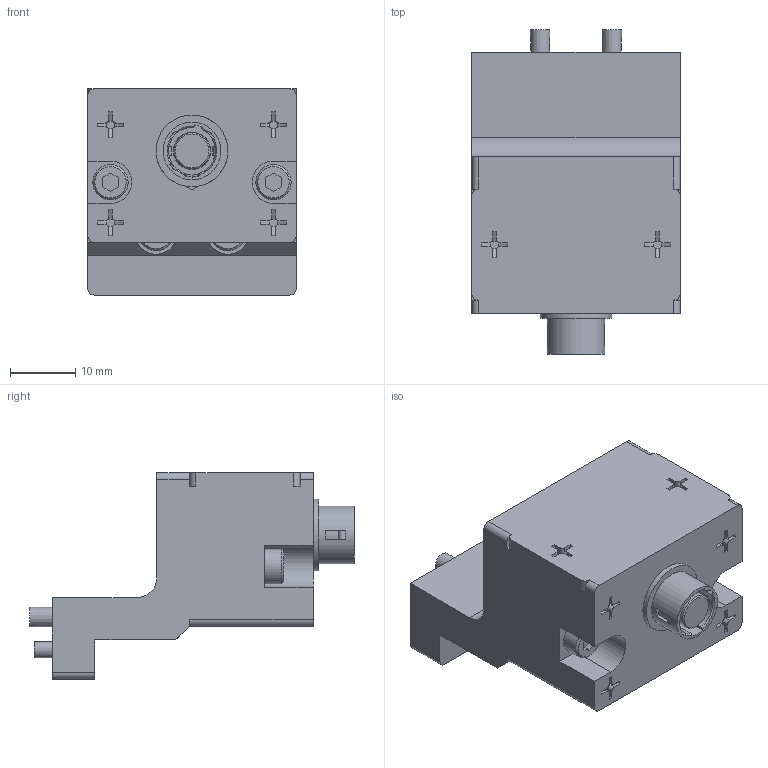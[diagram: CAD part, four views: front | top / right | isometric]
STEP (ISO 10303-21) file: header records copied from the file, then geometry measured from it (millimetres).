
FILE_DESCRIPTION(('STEP AP214'),'1');
FILE_NAME('KHG-12RS-D14C_ver1.stp','2026-05-14T07:27:11',(' '),(' '),'Spatial InterOp 3D',' ',' ');
FILE_SCHEMA(('AUTOMOTIVE_DESIGN { 1 0 10303 214 1 1 1 1 }'));
Length unit declared in the file: millimetre
Products named in the file (1): KHG-12RS-D14C_ver1
Bounding box: 32 x 49.8 x 31.6 mm (x, y, z)
Volume: 22356 mm3; surface area: 8997.6 mm2
Topology: 1 solids, 17 shells, 509 faces, 1269 edges, 825 vertices
Faces by surface type: plane 356, cylinder 127, cone 26
Full cylindrical faces by diameter (mm): 0.8 x2, 1.02 x4, 1.8 x4, 2 x4, 2.25 x6, 2.5 x6, 3 x10, 3.5 x4, 5.41 x4, 5.6 x1, 5.7 x1, 6.5 x2, 8 x1, 8.85 x1, 11 x1
Entity records: 20027 total; most frequent: CARTESIAN_POINT 2521, DIRECTION 2500, ORIENTED_EDGE 2332, EDGE_CURVE 1166, AXIS2_PLACEMENT_3D 836, LINE 828, VECTOR 828, STYLED_ITEM 800
